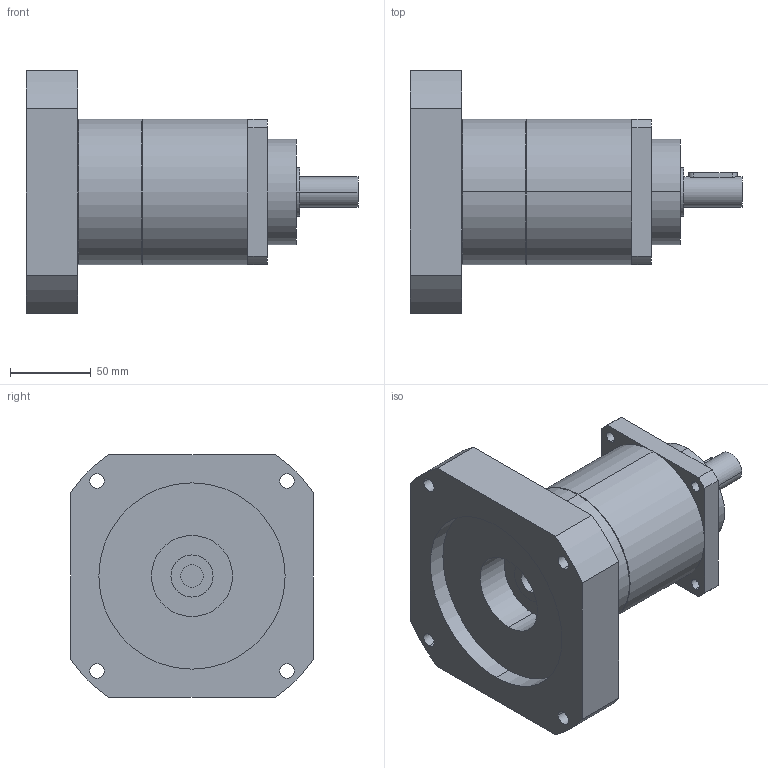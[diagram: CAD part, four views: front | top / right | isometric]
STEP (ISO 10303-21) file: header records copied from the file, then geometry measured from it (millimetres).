
FILE_DESCRIPTION(('CoCreate Modeling STEP Export'),'2;1');
FILE_NAME('GPT90_ig-9-12-16-20-25-28-35-40-50-70-100_19_B5T_14_P11.stp','2015-02-04T11:29:14',(''),(''),'CoCreate Modeling STEP processor for AP214 (Solid Model)','CoCreate Modeling 16.00C 25-Feb-2009 (C) Parametric Technology GmbH','');
FILE_SCHEMA(('AUTOMOTIVE_DESIGN { 1 0 10303 214 1 1 1 1 }'));
Length unit declared in the file: millimetre
Products named in the file (2): GPT90_ig-9-12-16-20-25-28-35-40-50-70-100_19_B5T_14_P11
Assembly tree (1 placements, depth 2):
  GPT90_ig-9-12-16-20-25-28-35-40-50-70-100_19_B5T_14_P11
    GPT90_ig-9-12-16-20-25-28-35-40-50-70-100_19_B5T_14_P11
Bounding box: 205 x 150 x 150 mm (x, y, z)
Volume: 1355633.4 mm3; surface area: 117577.9 mm2
Topology: 1 solids, 1 shells, 77 faces, 206 edges, 141 vertices
Faces by surface type: cylinder 46, plane 27, cone 4
Entity records: 2596 total; most frequent: CARTESIAN_POINT 742, ORIENTED_EDGE 412, DIRECTION 324, EDGE_CURVE 206, VERTEX_POINT 141, AXIS2_PLACEMENT_3D 120, EDGE_LOOP 103, VECTOR 84
